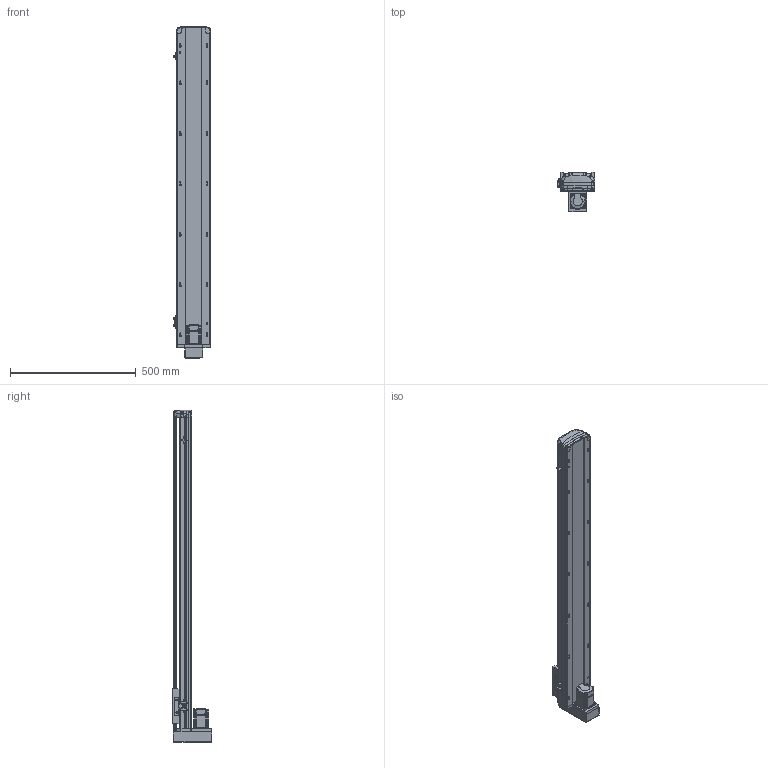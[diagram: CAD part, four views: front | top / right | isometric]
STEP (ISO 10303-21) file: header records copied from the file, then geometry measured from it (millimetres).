
FILE_DESCRIPTION (( 'STEP AP214' ), '1' );
FILE_NAME ('RTH14-XX-1050-M-M20-C4.STEP', '2025-10-25T02:52:54', ( 'Microsoft' ), ( 'Microsoft' ), 'SwSTEP 2.0', 'SolidWorks 2018', '' );
FILE_SCHEMA (( 'AUTOMOTIVE_DESIGN' ));
Length unit declared in the file: millimetre
Products named in the file (10): N_OMRON EE-SX672 传感器^RTH14-XX-XX-M-M20-C4; N_RTH14-GY-001P^RTH14-XX-XX-M-M20-C4; N_RTH14-M-011P菁釱^RTH14-XX-XX-M-M20-C4; N_RTH14-R-004-SFSR16賑釱^RTH14-XX-XX-M-M20-C4; N_MSMD022P1AA_200W^RTH14-XX-XX-M-M20-C4; N_RTH14-M-007P奻裔^RTH14-XX-XX-M-M20-C4; N_RTH13-M-008萇儂啣狟殏^RTH14-XX-XX-M-M20-C4; RTH14-XX-1050-M-M20-C4; N_RTH13-M-018裔赽^RTH14-XX-XX-M-M20-C4; N_RTH13-L-012感应片（外置）^RTH14-XX-XX-M-M20-C4
Assembly tree (11 placements, depth 2):
  RTH14-XX-1050-M-M20-C4
    N_RTH14-M-011P菁釱^RTH14-XX-XX-M-M20-C4
    N_RTH14-M-007P奻裔^RTH14-XX-XX-M-M20-C4
    N_MSMD022P1AA_200W^RTH14-XX-XX-M-M20-C4
    N_RTH13-M-008萇儂啣狟殏^RTH14-XX-XX-M-M20-C4
    N_RTH13-M-018裔赽^RTH14-XX-XX-M-M20-C4
    N_RTH13-L-012感应片（外置）^RTH14-XX-XX-M-M20-C4
    N_OMRON EE-SX672 传感器^RTH14-XX-XX-M-M20-C4  x3
    N_RTH14-R-004-SFSR16賑釱^RTH14-XX-XX-M-M20-C4
    N_RTH14-GY-001P^RTH14-XX-XX-M-M20-C4
Bounding box: 148.5 x 156.5 x 1317.49 mm (x, y, z)
Volume: 5610606 mm3; surface area: 1279887.2 mm2
Topology: 11 solids, 11 shells, 1903 faces, 5324 edges, 3488 vertices
Faces by surface type: plane 999, cylinder 510, bspline 345, cone 45, torus 4
Entity records: 58314 total; most frequent: CARTESIAN_POINT 23307, ORIENTED_EDGE 7716, DIRECTION 6243, EDGE_CURVE 3858, VERTEX_POINT 2524, LINE 2201, VECTOR 2201, AXIS2_PLACEMENT_3D 2021
